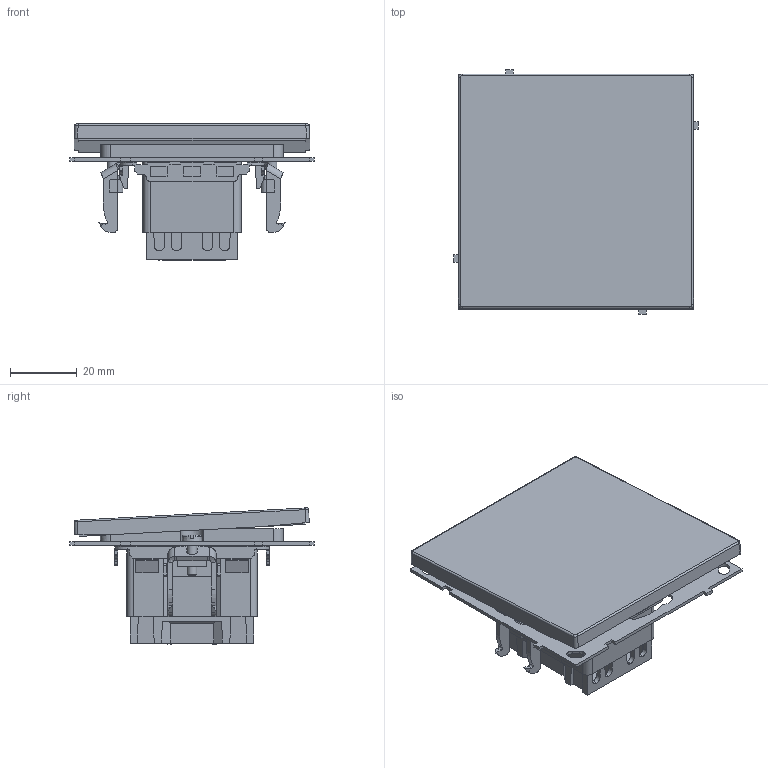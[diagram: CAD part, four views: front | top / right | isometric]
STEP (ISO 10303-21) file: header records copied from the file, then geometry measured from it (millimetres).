
FILE_DESCRIPTION (( 'STEP AP203' ), '1' );
FILE_NAME ('7000153.STEP', '2025-12-22T13:55:33', ( '' ), ( '' ), 'SwSTEP 2.0', 'SolidWorks 2022', '' );
FILE_SCHEMA (( 'CONFIG_CONTROL_DESIGN' ));
Length unit declared in the file: millimetre
Products named in the file (1): 7000153
Bounding box: 73.5 x 73.5 x 40.9 mm (x, y, z)
Volume: 69577.4 mm3; surface area: 27884.4 mm2
Topology: 3 solids, 3 shells, 1402 faces, 3872 edges, 2510 vertices
Faces by surface type: plane 848, cylinder 258, bspline 254, torus 22, cone 12, sphere 8
Full cylindrical faces by diameter (mm): 3 x4, 3.3 x2
Entity records: 52955 total; most frequent: CARTESIAN_POINT 18661, ORIENTED_EDGE 7700, DIRECTION 6090, EDGE_CURVE 3850, VECTOR 2732, LINE 2732, VERTEX_POINT 2500, AXIS2_PLACEMENT_3D 1679
